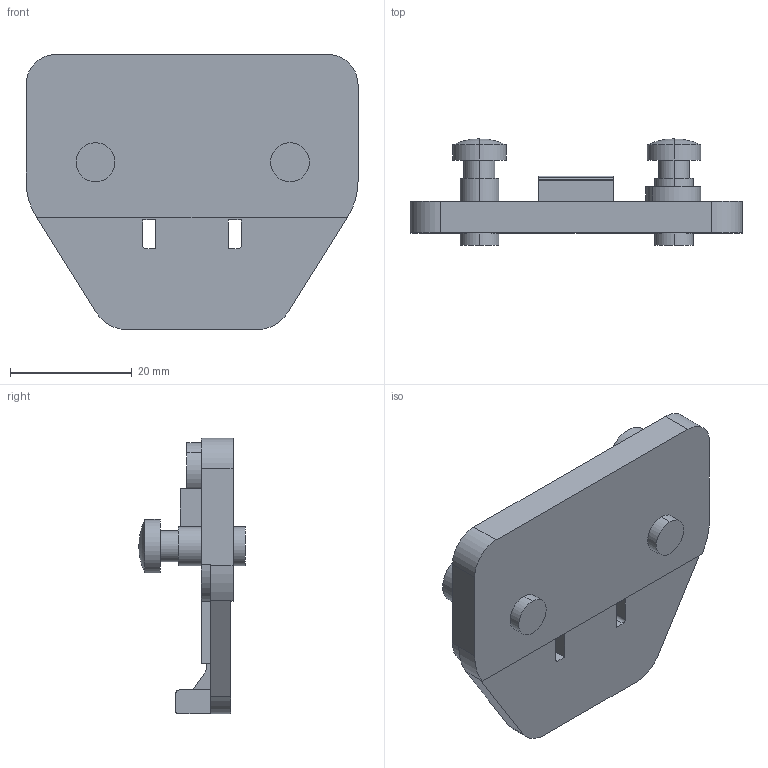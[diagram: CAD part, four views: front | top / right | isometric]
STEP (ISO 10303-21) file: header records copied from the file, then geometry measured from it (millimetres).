
FILE_DESCRIPTION (( 'STEP AP203' ), '1' );
FILE_NAME ('89T02TQ-DTC3D.STEP', '2021-04-13T00:55:00', ( '' ), ( '' ), 'SwSTEP 2.0', 'SolidWorks 2018', '' );
FILE_SCHEMA (( 'CONFIG_CONTROL_DESIGN' ));
Length unit declared in the file: millimetre
Products named in the file (1): 89T02TQ-DTC3D
Bounding box: 54.6 x 17.5 x 45.3 mm (x, y, z)
Volume: 11641.8 mm3; surface area: 6516.6 mm2
Topology: 1 solids, 1 shells, 102 faces, 265 edges, 172 vertices
Faces by surface type: plane 60, cylinder 38, torus 4
Entity records: 3186 total; most frequent: DIRECTION 551, CARTESIAN_POINT 536, ORIENTED_EDGE 522, EDGE_CURVE 261, AXIS2_PLACEMENT_3D 187, LINE 177, VECTOR 177, VERTEX_POINT 172
